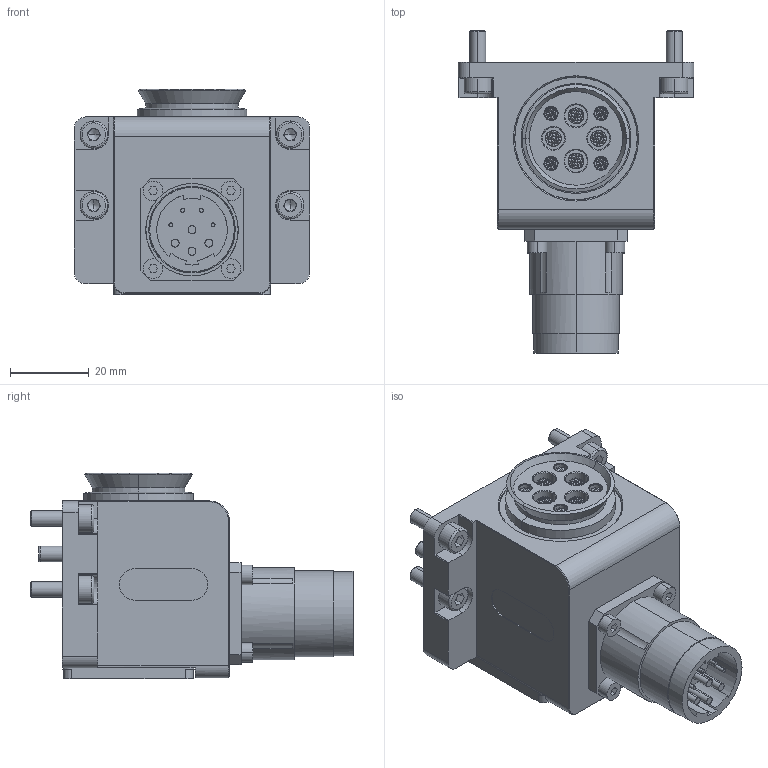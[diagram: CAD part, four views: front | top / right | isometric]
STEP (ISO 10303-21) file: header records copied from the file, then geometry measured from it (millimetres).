
FILE_DESCRIPTION (( 'STEP AP203' ), '1' );
FILE_NAME ('QCSM-08R1.STEP', '2023-12-27T09:13:27', ( '微软用户' ), ( '微软中国' ), 'SwSTEP 2.0', 'SolidWorks 2018', '' );
FILE_SCHEMA (( 'CONFIG_CONTROL_DESIGN' ));
Length unit declared in the file: millimetre
Products named in the file (1): QCSM-08R1
Bounding box: 60 x 82 x 52.4 mm (x, y, z)
Volume: 120301.6 mm3; surface area: 28919.4 mm2
Topology: 6 solids, 6 shells, 1210 faces, 2828 edges, 1700 vertices
Faces by surface type: plane 781, cylinder 281, cone 128, torus 12, bspline 8
Entity records: 37727 total; most frequent: CARTESIAN_POINT 13006, ORIENTED_EDGE 5596, DIRECTION 4206, EDGE_CURVE 2798, AXIS2_PLACEMENT_3D 1710, VERTEX_POINT 1700, B_SPLINE_CURVE_WITH_KNOTS 1505, EDGE_LOOP 1312
